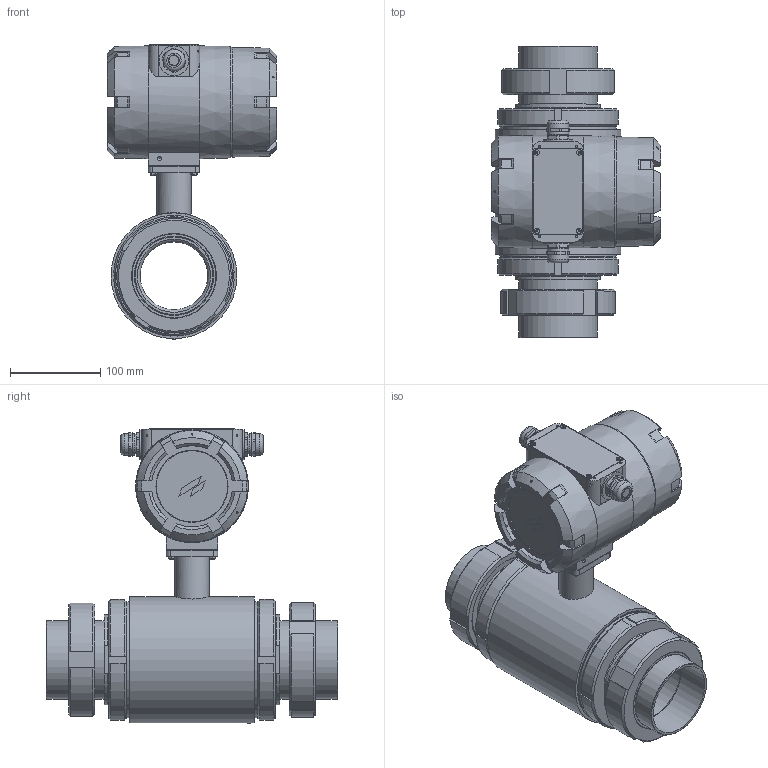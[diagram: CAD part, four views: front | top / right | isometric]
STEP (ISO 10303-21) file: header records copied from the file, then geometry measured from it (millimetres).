
FILE_DESCRIPTION(('STEP AP214'), '1');
FILE_NAME('ÂÇËÅÒ ÒÝÐ DN80 ïèùåâîé', '', ('UNSPECIFIED'), ('UNSPECIFIED'), 'ASCON STEP Converter 1.6', 'ASCON Math Kernel', '');
FILE_SCHEMA(('AUTOMOTIVE_DESIGN { 1 0 10303 214 3 1 1}'));
Length unit declared in the file: millimetre
Products named in the file (1): 婽挭.407212.002-07.01
Bounding box: 188 x 323 x 326.97 mm (x, y, z)
Volume: 2342036.1 mm3; surface area: 700934.6 mm2
Topology: 4 solids, 6 shells, 885 faces, 2198 edges, 1426 vertices
Faces by surface type: plane 437, cylinder 243, cone 147, torus 41, bspline 16, sphere 1
Full cylindrical faces by diameter (mm): 2 x10, 2.459 x4, 3.959 x10, 4 x9, 4.459 x1, 5 x4, 5.6 x1, 6 x12, 8 x2, 10 x4, 12 x2, 15 x2, 16 x3, 17.835 x1, 18.376 x1, 19 x2, 19.2 x2, 19.7 x2, 20 x2, 20.1 x2, 22 x2, 23 x1, 24 x4, 30 x3, 32.5 x1, 33 x2, 38 x2, 39 x1, 40.5 x1, 47.5 x2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
Entity records: 58339 total; most frequent: CARTESIAN_POINT 31175, DIRECTION 4035, ORIENTED_EDGE 3882, EDGE_CURVE 1941, AXIS2_PLACEMENT_3D 1615, VERTEX_POINT 1421, EDGE_LOOP 1320, FACE_BOUND 939
